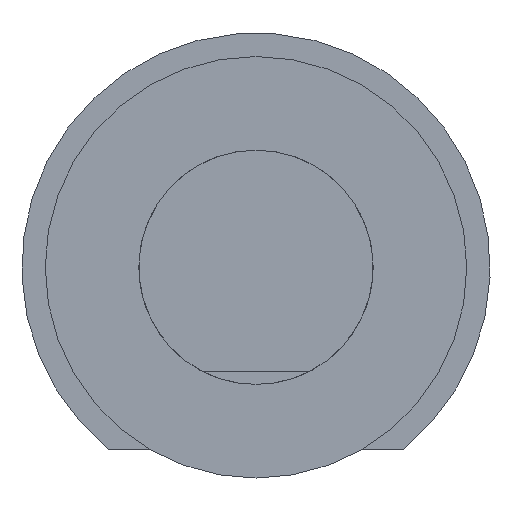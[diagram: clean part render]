
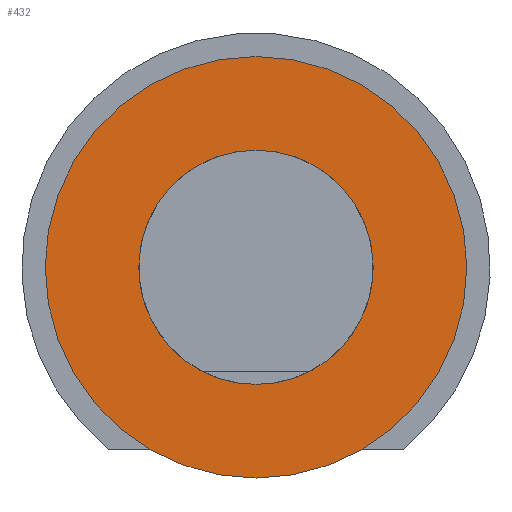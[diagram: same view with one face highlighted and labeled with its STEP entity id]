
A CAD part, front view. The second image highlights one B-rep face of the part: STEP entity #432.
In plain terms, the highlighted planar face has unit normal (0, -1, 0).
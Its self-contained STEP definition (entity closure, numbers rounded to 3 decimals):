
#12 = EDGE_CURVE ( 'NONE', #281, #256, #545, .T. ) ;
#59 = EDGE_LOOP ( 'NONE', ( #493, #126 ) ) ;
#74 = CARTESIAN_POINT ( 'NONE',  ( 0., 0., 4.5 ) ) ;
#76 = CARTESIAN_POINT ( 'NONE',  ( 0., 0., 8.1 ) ) ;
#99 = CARTESIAN_POINT ( 'NONE',  ( 0., 0., -4.5 ) ) ;
#106 = DIRECTION ( 'NONE',  ( 0., -1., 0. ) ) ;
#115 = ORIENTED_EDGE ( 'NONE', *, *, #12, .F. ) ;
#124 = CARTESIAN_POINT ( 'NONE',  ( 0., 0., -8.1 ) ) ;
#126 = ORIENTED_EDGE ( 'NONE', *, *, #550, .F. ) ;
#132 = AXIS2_PLACEMENT_3D ( 'NONE', #161, #171, #591 ) ;
#142 = DIRECTION ( 'NONE',  ( 0., 1., 0. ) ) ;
#161 = CARTESIAN_POINT ( 'NONE',  ( 0., 0., 0. ) ) ;
#171 = DIRECTION ( 'NONE',  ( 0., -1., 0. ) ) ;
#173 = DIRECTION ( 'NONE',  ( 0., 0., -1. ) ) ;
#206 = VERTEX_POINT ( 'NONE', #99 ) ;
#210 = DIRECTION ( 'NONE',  ( 0., 0., 1. ) ) ;
#211 = CIRCLE ( 'NONE', #225, 4.5 ) ;
#215 = CIRCLE ( 'NONE', #296, 8.1 ) ;
#225 = AXIS2_PLACEMENT_3D ( 'NONE', #427, #106, #210 ) ;
#228 = VERTEX_POINT ( 'NONE', #74 ) ;
#256 = VERTEX_POINT ( 'NONE', #76 ) ;
#281 = VERTEX_POINT ( 'NONE', #124 ) ;
#282 = DIRECTION ( 'NONE',  ( 0., 1., 0. ) ) ;
#296 = AXIS2_PLACEMENT_3D ( 'NONE', #350, #142, #453 ) ;
#340 = EDGE_CURVE ( 'NONE', #256, #281, #215, .T. ) ;
#344 = EDGE_LOOP ( 'NONE', ( #115, #466 ) ) ;
#350 = CARTESIAN_POINT ( 'NONE',  ( 0., 0., 0. ) ) ;
#367 = CIRCLE ( 'NONE', #132, 4.5 ) ;
#381 = FACE_OUTER_BOUND ( 'NONE', #344, .T. ) ;
#408 = DIRECTION ( 'NONE',  ( 0., 0., 1. ) ) ;
#427 = CARTESIAN_POINT ( 'NONE',  ( 0., 0., 0. ) ) ;
#428 = AXIS2_PLACEMENT_3D ( 'NONE', #592, #282, #173 ) ;
#432 = ADVANCED_FACE ( 'NONE', ( #525, #381 ), #512, .F. ) ;
#453 = DIRECTION ( 'NONE',  ( 0., 0., -1. ) ) ;
#466 = ORIENTED_EDGE ( 'NONE', *, *, #340, .F. ) ;
#493 = ORIENTED_EDGE ( 'NONE', *, *, #587, .F. ) ;
#512 = PLANE ( 'NONE',  #581 ) ;
#525 = FACE_BOUND ( 'NONE', #59, .T. ) ;
#545 = CIRCLE ( 'NONE', #428, 8.1 ) ;
#550 = EDGE_CURVE ( 'NONE', #206, #228, #367, .T. ) ;
#581 = AXIS2_PLACEMENT_3D ( 'NONE', #654, #659, #408 ) ;
#587 = EDGE_CURVE ( 'NONE', #228, #206, #211, .T. ) ;
#591 = DIRECTION ( 'NONE',  ( 0., 0., 1. ) ) ;
#592 = CARTESIAN_POINT ( 'NONE',  ( 0., 0., 0. ) ) ;
#654 = CARTESIAN_POINT ( 'NONE',  ( 0., 0., 0. ) ) ;
#659 = DIRECTION ( 'NONE',  ( 0., 1., 0. ) ) ;
